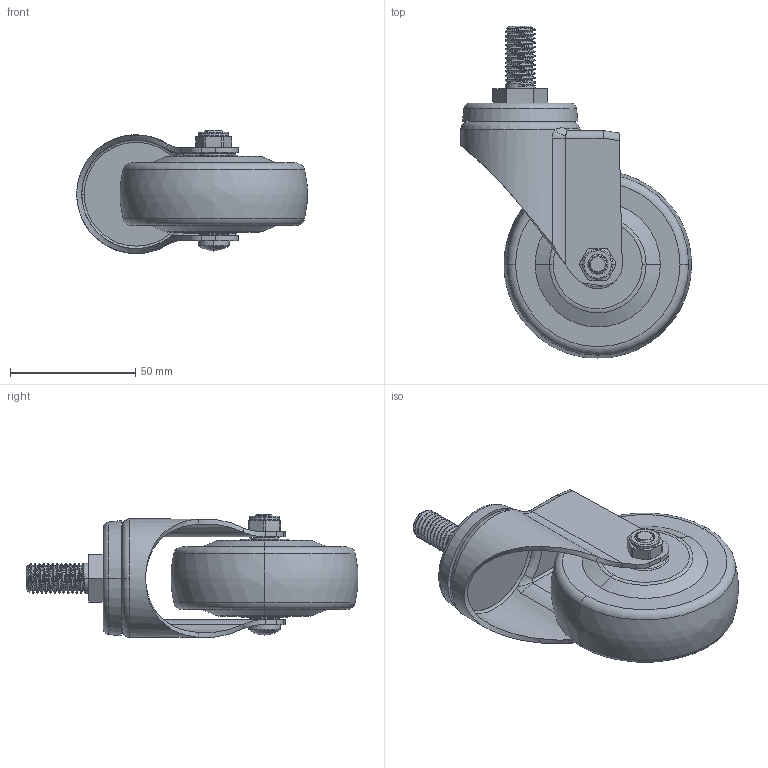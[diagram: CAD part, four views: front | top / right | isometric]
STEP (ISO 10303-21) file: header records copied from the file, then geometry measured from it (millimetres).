
FILE_DESCRIPTION((''),'2;1');
FILE_NAME('361125-3625-64_ASM','2020-01-03T',('L'),(''),'PRO/ENGINEER BY PARAMETRIC TECHNOLOGY CORPORATION, 2010280','PRO/ENGINEER BY PARAMETRIC TECHNOLOGY CORPORATION, 2010280','');
FILE_SCHEMA(('CONFIG_CONTROL_DESIGN'));
Length unit declared in the file: millimetre
Products named in the file (5): 36133; 363-964; 350-33A; 300-34; 361125-3625-64_ASM
Assembly tree (4 placements, depth 2):
  361125-3625-64_ASM
    36133
    363-964
    350-33A
    300-34
Bounding box: 92.11 x 132.66 x 49.22 mm (x, y, z)
Volume: 145630 mm3; surface area: 37211.9 mm2
Topology: 4 solids, 4 shells, 248 faces, 612 edges, 384 vertices
Faces by surface type: cylinder 94, plane 51, bspline 49, torus 28, cone 24, sphere 2
Entity records: 15010 total; most frequent: CARTESIAN_POINT 9425, ORIENTED_EDGE 1220, DIRECTION 1009, EDGE_CURVE 610, AXIS2_PLACEMENT_3D 400, VERTEX_POINT 384, EDGE_LOOP 270, FACE_OUTER_BOUND 248
